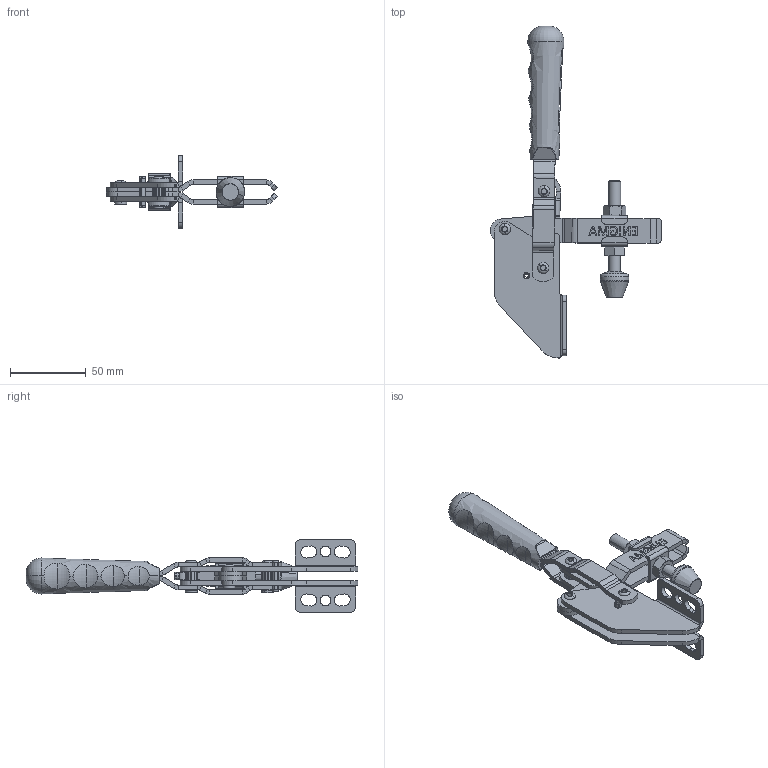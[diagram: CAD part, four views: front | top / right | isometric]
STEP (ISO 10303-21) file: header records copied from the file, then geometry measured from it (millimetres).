
FILE_DESCRIPTION (( 'STEP AP214' ), '1' );
FILE_NAME ('1103 A.STEP', '2022-08-01T09:42:25', ( '' ), ( '' ), 'SwSTEP 2.0', 'SolidWorks 2022', '' );
FILE_SCHEMA (( 'AUTOMOTIVE_DESIGN' ));
Length unit declared in the file: millimetre
Products named in the file (18): Aynalama1103 HAREKET KOLU_2022_Varsayılan; 5x17_PERÇİN_Varsayılan; 8x5x6_BURÇ_Varsayılan; 1103 HAREKET KOLU_2022_Varsayılan; M8 Baskı_Varsayılan; 4x20_YARIKLI_PİM_Varsayılan; M8 Askı_Varsayılan; Mirror1103_A_GÖVDE_Varsayılan; 5x22_PERÇİN_Varsayılan; Aynalama1103 BASKI KOLU_2022_Varsayılan; 1103_A_GÖVDE_Varsayılan; 1103 MAFSAL_2022_Varsayılan; M8_BASKI_GRUBU^1103_Y_MONTAJ_REV01_Varsayılan; 1103 A; 1103 BASKI KOLU_2022_Varsayılan; M8 Somun; C90_Yeni_Tutamak_Varsayılan; 8x5x12_BURÇ_Varsayılan
Assembly tree (23 placements, depth 3):
  1103 A
    1103 BASKI KOLU_2022_Varsayılan
    1103 HAREKET KOLU_2022_Varsayılan
    1103 MAFSAL_2022_Varsayılan
    8x5x12_BURÇ_Varsayılan  x2
    8x5x6_BURÇ_Varsayılan  x2
    5x22_PERÇİN_Varsayılan  x2
    5x17_PERÇİN_Varsayılan  x2
    Aynalama1103 BASKI KOLU_2022_Varsayılan
    Aynalama1103 HAREKET KOLU_2022_Varsayılan
    M8_BASKI_GRUBU^1103_Y_MONTAJ_REV01_Varsayılan
      M8 Askı_Varsayılan  x2
      M8 Baskı_Varsayılan
      M8 Somun  x2
    C90_Yeni_Tutamak_Varsayılan
    1103_A_GÖVDE_Varsayılan
    Mirror1103_A_GÖVDE_Varsayılan
    4x20_YARIKLI_PİM_Varsayılan
Bounding box: 113.05 x 219.34 x 48.15 mm (x, y, z)
Volume: 83103.4 mm3; surface area: 59995.7 mm2
Topology: 22 solids, 22 shells, 1397 faces, 3493 edges, 2213 vertices
Faces by surface type: plane 862, cylinder 293, bspline 136, cone 66, torus 36, sphere 4
Entity records: 41028 total; most frequent: CARTESIAN_POINT 13671, ORIENTED_EDGE 5436, DIRECTION 4906, EDGE_CURVE 2718, LINE 1734, VECTOR 1734, VERTEX_POINT 1719, AXIS2_PLACEMENT_3D 1586
